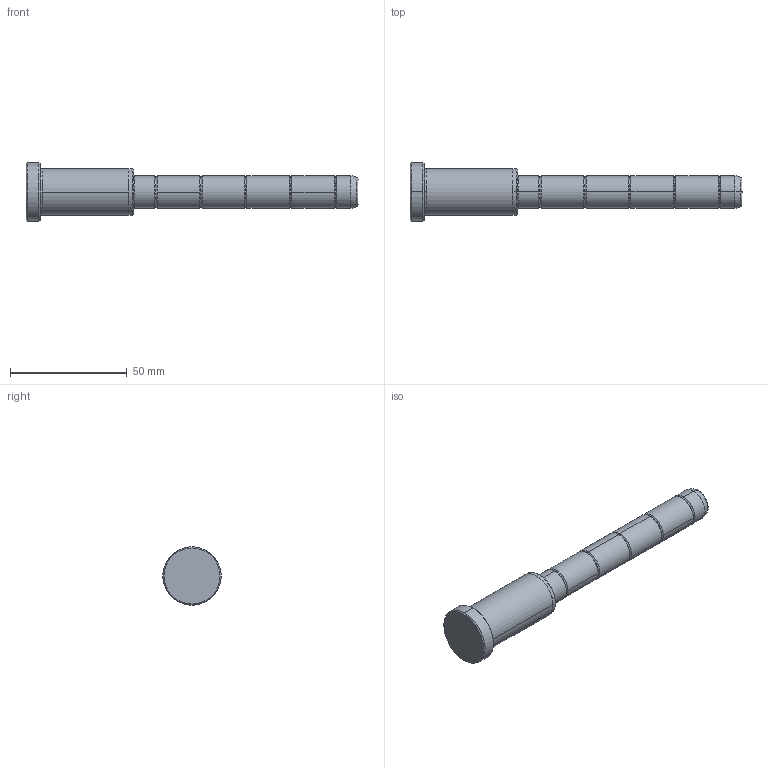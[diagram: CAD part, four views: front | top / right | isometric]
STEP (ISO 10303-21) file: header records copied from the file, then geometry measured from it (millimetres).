
FILE_DESCRIPTION (( 'STEP AP214' ), '1' );
FILE_NAME ('D02_14x46x96.step', '2011-12-25T20:56:02', ( 'Dell' ), ( '' ), 'SwSTEP 2.0', 'SolidWorks 2010', '' );
FILE_SCHEMA (( 'AUTOMOTIVE_DESIGN' ));
Length unit declared in the file: millimetre
Products named in the file (1): D02_14x46x96
Bounding box: 142 x 25 x 25 mm (x, y, z)
Volume: 30149.8 mm3; surface area: 8181.6 mm2
Topology: 1 solids, 1 shells, 60 faces, 128 edges, 74 vertices
Faces by surface type: bspline 24, cylinder 20, cone 10, plane 6
Entity records: 1906 total; most frequent: CARTESIAN_POINT 709, ORIENTED_EDGE 256, DIRECTION 242, EDGE_CURVE 128, AXIS2_PLACEMENT_3D 107, VERTEX_POINT 74, CIRCLE 70, EDGE_LOOP 64
